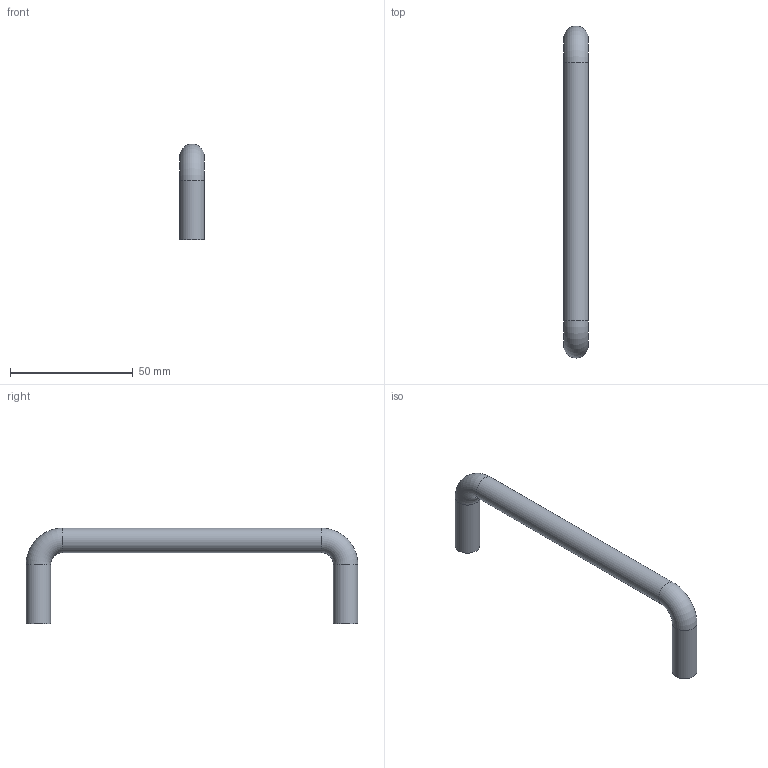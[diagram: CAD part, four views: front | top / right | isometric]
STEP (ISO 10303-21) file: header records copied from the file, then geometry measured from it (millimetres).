
FILE_DESCRIPTION(/* description */ (''),/* implementation_level */ '2;1');
FILE_NAME(/* name */ '\\SYNOLOGYNAS\web\db2\A-GS10-125-316\A-GS10-125-316.stp',/* time_stamp */ '2026-09-19T13:48:04+09:00',/* author */ ('user'),/* organization */ (''),/* preprocessor_version */ 'ST-DEVELOPER v15.6',/* originating_system */ 'Autodesk Inventor 2015',/* authorisation */ '');
FILE_SCHEMA (('AUTOMOTIVE_DESIGN { 1 0 10303 214 3 1 1 }'));
Length unit declared in the file: millimetre
Products named in the file (1): A-GS10-125-316
Bounding box: 10 x 135 x 39 mm (x, y, z)
Volume: 13880.8 mm3; surface area: 6331.1 mm2
Topology: 1 solids, 1 shells, 13 faces, 29 edges, 18 vertices
Faces by surface type: cylinder 5, cone 4, plane 2, torus 2
Full cylindrical faces by diameter (mm): 6 x2, 10 x3
Entity records: 285 total; most frequent: DIRECTION 52, CARTESIAN_POINT 38, AXIS2_PLACEMENT_3D 26, EDGE_LOOP 24, ORIENTED_EDGE 24, FACE_OUTER_BOUND 13, ADVANCED_FACE 13, CIRCLE 12
